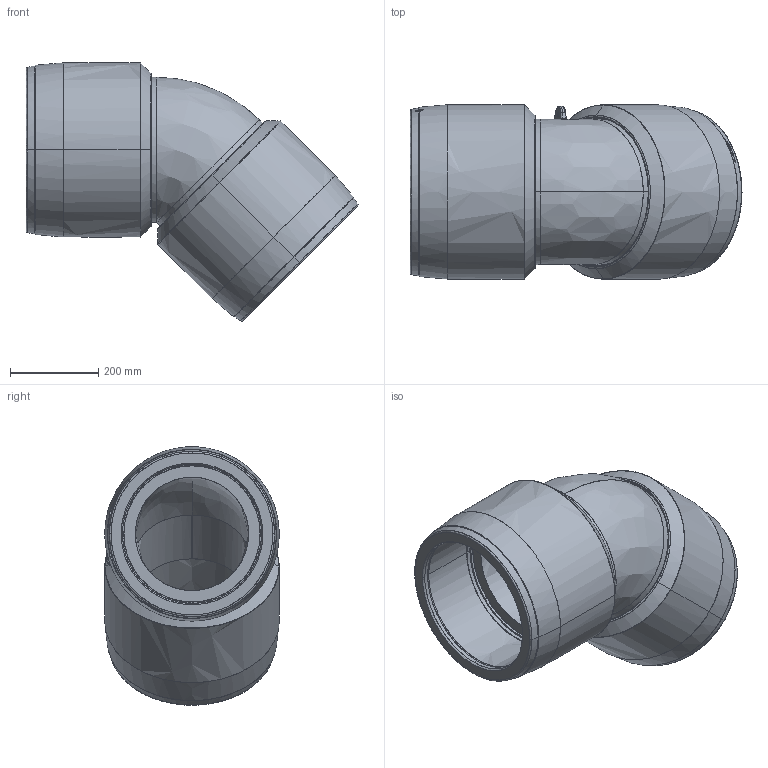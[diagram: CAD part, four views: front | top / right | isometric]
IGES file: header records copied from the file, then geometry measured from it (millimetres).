
Start section:  PTC IGES file: w45-xl_d315.igs
Global section: file name: w45-xl_d315.igs; native system: Pro/ENGINEER by Parametric Technology Corporation; preprocessor: 2011490; author: mtunjic; organization: Unknown; date: 20130729.150642; units: millimetre
Bounding box: 754.33 x 396 x 587.33 mm (x, y, z)
Surface area: 2192850.2 mm2 (no closed solid volume)
Topology: 0 solids, 0 shells, 513 faces, 2562 edges, 2560 vertices
Faces by surface type: bspline 513
